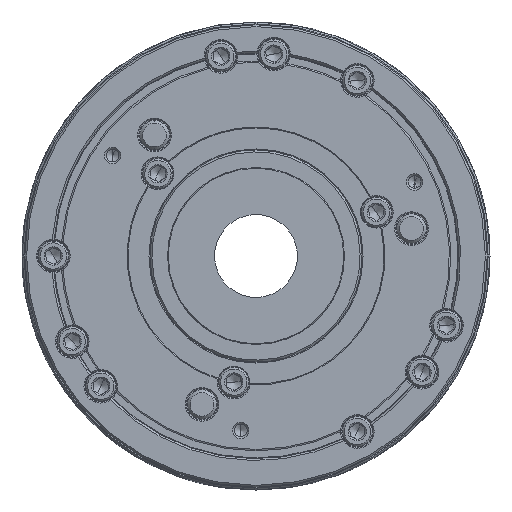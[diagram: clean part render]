
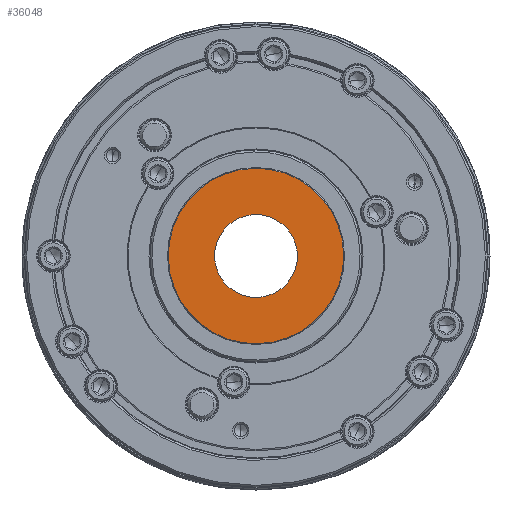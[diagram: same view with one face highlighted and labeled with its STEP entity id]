
A CAD part, left-side view. The second image highlights one B-rep face of the part: STEP entity #36048.
In plain terms, the highlighted planar face has unit normal (-1, 0, 0).
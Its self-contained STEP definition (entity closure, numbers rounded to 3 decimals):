
#2344 = AXIS2_PLACEMENT_3D ( 'NONE', #22210, #22540, #63879 ) ;
#2903 = CARTESIAN_POINT ( 'NONE',  ( -44., 0., 0. ) ) ;
#5139 = CIRCLE ( 'NONE', #37641, 47.6 ) ;
#9532 = FACE_BOUND ( 'NONE', #39570, .T. ) ;
#10130 = EDGE_CURVE ( 'NONE', #15510, #46144, #5139, .T. ) ;
#15510 = VERTEX_POINT ( 'NONE', #54970 ) ;
#17634 = DIRECTION ( 'NONE',  ( -1., 0., 0. ) ) ;
#17805 = DIRECTION ( 'NONE',  ( 0., 0., 1. ) ) ;
#18256 = ORIENTED_EDGE ( 'NONE', *, *, #58925, .T. ) ;
#18844 = CARTESIAN_POINT ( 'NONE',  ( -44., 0., -22.5 ) ) ;
#20896 = CIRCLE ( 'NONE', #38244, 22.5 ) ;
#21808 = DIRECTION ( 'NONE',  ( -1., 0., 0. ) ) ;
#22210 = CARTESIAN_POINT ( 'NONE',  ( -44., 0., 0. ) ) ;
#22540 = DIRECTION ( 'NONE',  ( -1., 0., 0. ) ) ;
#23943 = EDGE_CURVE ( 'NONE', #51795, #34172, #20896, .T. ) ;
#25802 = FACE_OUTER_BOUND ( 'NONE', #40044, .T. ) ;
#27174 = CARTESIAN_POINT ( 'NONE',  ( -44., 0., 22.5 ) ) ;
#27593 = DIRECTION ( 'NONE',  ( 0., 0., 1. ) ) ;
#30357 = AXIS2_PLACEMENT_3D ( 'NONE', #66787, #61714, #40077 ) ;
#33941 = CARTESIAN_POINT ( 'NONE',  ( -44., 0., 0. ) ) ;
#34172 = VERTEX_POINT ( 'NONE', #18844 ) ;
#34998 = PLANE ( 'NONE',  #30357 ) ;
#36048 = ADVANCED_FACE ( 'NONE', ( #9532, #25802 ), #34998, .F. ) ;
#37641 = AXIS2_PLACEMENT_3D ( 'NONE', #58402, #21808, #27593 ) ;
#38244 = AXIS2_PLACEMENT_3D ( 'NONE', #2903, #64239, #17805 ) ;
#39570 = EDGE_LOOP ( 'NONE', ( #42011, #43793 ) ) ;
#40044 = EDGE_LOOP ( 'NONE', ( #18256, #66110 ) ) ;
#40077 = DIRECTION ( 'NONE',  ( 0., 0., -1. ) ) ;
#42011 = ORIENTED_EDGE ( 'NONE', *, *, #23943, .F. ) ;
#42846 = EDGE_CURVE ( 'NONE', #34172, #51795, #50264, .T. ) ;
#43793 = ORIENTED_EDGE ( 'NONE', *, *, #42846, .F. ) ;
#46144 = VERTEX_POINT ( 'NONE', #50070 ) ;
#50070 = CARTESIAN_POINT ( 'NONE',  ( -44., 0., -47.6 ) ) ;
#50264 = CIRCLE ( 'NONE', #55615, 22.5 ) ;
#51104 = CIRCLE ( 'NONE', #2344, 47.6 ) ;
#51795 = VERTEX_POINT ( 'NONE', #27174 ) ;
#54970 = CARTESIAN_POINT ( 'NONE',  ( -44., 0., 47.6 ) ) ;
#55252 = DIRECTION ( 'NONE',  ( 0., 0., 1. ) ) ;
#55615 = AXIS2_PLACEMENT_3D ( 'NONE', #33941, #17634, #55252 ) ;
#58402 = CARTESIAN_POINT ( 'NONE',  ( -44., 0., 0. ) ) ;
#58925 = EDGE_CURVE ( 'NONE', #46144, #15510, #51104, .T. ) ;
#61714 = DIRECTION ( 'NONE',  ( 1., 0., 0. ) ) ;
#63879 = DIRECTION ( 'NONE',  ( 0., 0., 1. ) ) ;
#64239 = DIRECTION ( 'NONE',  ( -1., 0., 0. ) ) ;
#66110 = ORIENTED_EDGE ( 'NONE', *, *, #10130, .T. ) ;
#66787 = CARTESIAN_POINT ( 'NONE',  ( -44., 47.6, 0. ) ) ;
